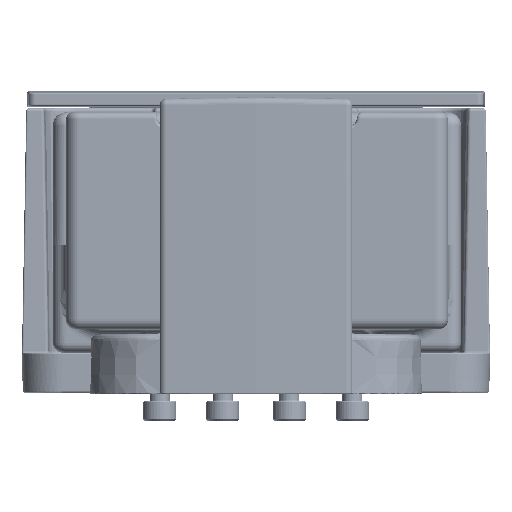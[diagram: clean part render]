
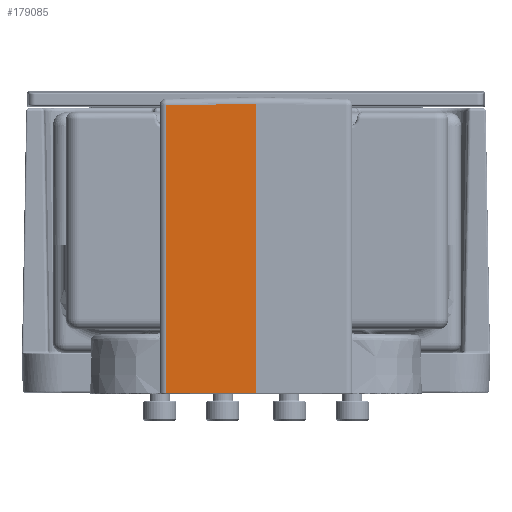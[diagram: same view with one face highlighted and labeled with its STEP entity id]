
A CAD part, front view. The second image highlights one B-rep face of the part: STEP entity #179085.
In plain terms, the highlighted planar face has unit normal (-0.018, -1, 0).
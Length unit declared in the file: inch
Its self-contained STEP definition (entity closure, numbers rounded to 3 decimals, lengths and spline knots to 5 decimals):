
#23339 = CARTESIAN_POINT ( 'NONE',  ( -0.0095, -0.36398, 1.32881 ) ) ;
#26767 = VECTOR ( 'NONE', #219226, 39.37008 ) ;
#32243 = B_SPLINE_CURVE_WITH_KNOTS ( 'NONE', 3,
 ( #23339, #98862, #274341, #124002 ),
 .UNSPECIFIED., .F., .F.,
 ( 4, 4 ),
 ( 0., 1. ),
 .UNSPECIFIED. ) ;
#39786 = VERTEX_POINT ( 'NONE', #81824 ) ;
#43794 = CARTESIAN_POINT ( 'NONE',  ( -0.85429, -0.34923, -0.01452 ) ) ;
#56892 = VERTEX_POINT ( 'NONE', #129995 ) ;
#81824 = CARTESIAN_POINT ( 'NONE',  ( -0.85429, -0.34923, -1.3906 ) ) ;
#98862 = CARTESIAN_POINT ( 'NONE',  ( -0.2911, -0.35906, 1.32389 ) ) ;
#107492 = CARTESIAN_POINT ( 'NONE',  ( -0.85429, -0.34923, 1.31406 ) ) ;
#107671 = DIRECTION ( 'NONE',  ( 0., 0., 1. ) ) ;
#124002 = CARTESIAN_POINT ( 'NONE',  ( -0.85429, -0.34923, 1.31406 ) ) ;
#124611 = CARTESIAN_POINT ( 'NONE',  ( -0.0095, -0.36398, -0.00715 ) ) ;
#129995 = CARTESIAN_POINT ( 'NONE',  ( -0.0095, -0.36398, -1.3906 ) ) ;
#141297 = ORIENTED_EDGE ( 'NONE', *, *, #283668, .T. ) ;
#159922 = LINE ( 'NONE', #43794, #26767 ) ;
#179085 = ADVANCED_FACE ( 'NONE', ( #283119 ), #232747, .T. ) ;
#181511 = EDGE_CURVE ( 'NONE', #39786, #246099, #159922, .T. ) ;
#182177 = CARTESIAN_POINT ( 'NONE',  ( -0.0095, -0.36398, -1.4056 ) ) ;
#185976 = ORIENTED_EDGE ( 'NONE', *, *, #302457, .T. ) ;
#200905 = AXIS2_PLACEMENT_3D ( 'NONE', #182177, #257917, #107671 ) ;
#219226 = DIRECTION ( 'NONE',  ( 0., 0., 1. ) ) ;
#224710 = CARTESIAN_POINT ( 'NONE',  ( -0.0095, -0.36398, 1.32881 ) ) ;
#232747 = PLANE ( 'NONE',  #200905 ) ;
#233074 = VECTOR ( 'NONE', #299232, 39.37008 ) ;
#244772 = LINE ( 'NONE', #124611, #303517 ) ;
#246099 = VERTEX_POINT ( 'NONE', #107492 ) ;
#248193 = ORIENTED_EDGE ( 'NONE', *, *, #275024, .F. ) ;
#248667 = DIRECTION ( 'NONE',  ( 0., 0., 1. ) ) ;
#252121 = CARTESIAN_POINT ( 'NONE',  ( -0.41078, -0.35697, -1.3906 ) ) ;
#257917 = DIRECTION ( 'NONE',  ( -0.017, -1., 0. ) ) ;
#274341 = CARTESIAN_POINT ( 'NONE',  ( -0.57269, -0.35415, 1.31898 ) ) ;
#275024 = EDGE_CURVE ( 'NONE', #56892, #39786, #307595, .T. ) ;
#283119 = FACE_OUTER_BOUND ( 'NONE', #290049, .T. ) ;
#283668 = EDGE_CURVE ( 'NONE', #294430, #246099, #32243, .T. ) ;
#290049 = EDGE_LOOP ( 'NONE', ( #141297, #306971, #248193, #185976 ) ) ;
#294430 = VERTEX_POINT ( 'NONE', #224710 ) ;
#299232 = DIRECTION ( 'NONE',  ( -1., 0.017, 0. ) ) ;
#302457 = EDGE_CURVE ( 'NONE', #56892, #294430, #244772, .T. ) ;
#303517 = VECTOR ( 'NONE', #248667, 39.37008 ) ;
#306971 = ORIENTED_EDGE ( 'NONE', *, *, #181511, .F. ) ;
#307595 = LINE ( 'NONE', #252121, #233074 ) ;
